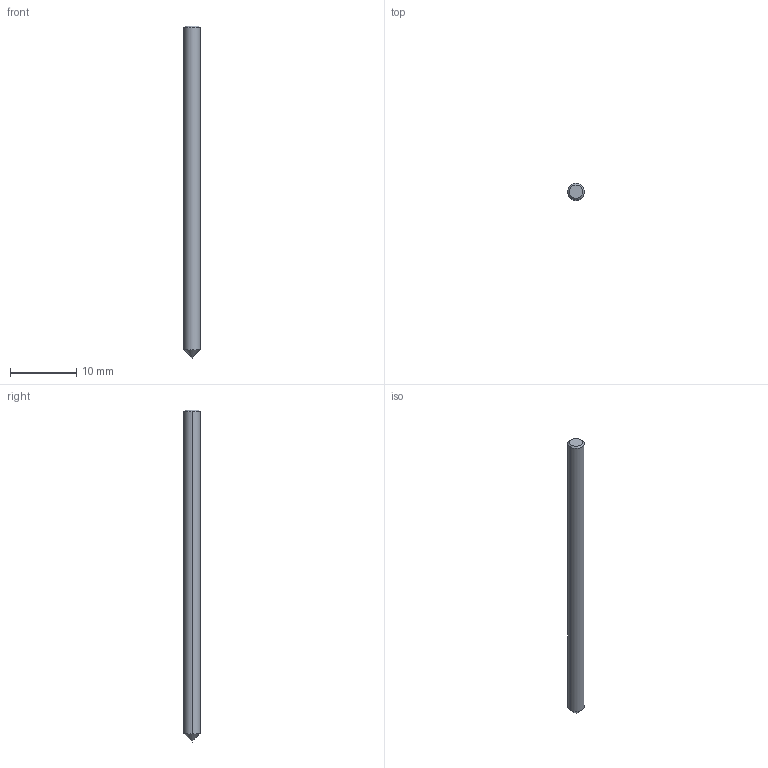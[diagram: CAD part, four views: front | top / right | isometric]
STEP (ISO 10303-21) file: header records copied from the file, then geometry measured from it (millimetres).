
FILE_DESCRIPTION (( 'STEP AP214' ), '1' );
FILE_NAME ('740.025.90_3D-model.step', '2022-02-19T09:39:04', ( '' ), ( '' ), 'SwSTEP 2.0', 'SolidWorks 2020', '' );
FILE_SCHEMA (( 'AUTOMOTIVE_DESIGN' ));
Length unit declared in the file: millimetre
Products named in the file (3): CUT-3D^Baugr46; 740.025.90_3D-model; NOCUT-3D^Baugr46
Assembly tree (2 placements, depth 2):
  740.025.90_3D-model
    CUT-3D^Baugr46
    NOCUT-3D^Baugr46
Bounding box: 2.5 x 2.5 x 50 mm (x, y, z)
Volume: 241.1 mm3; surface area: 403.3 mm2
Topology: 2 solids, 2 shells, 9 faces, 16 edges, 9 vertices
Faces by surface type: cone 4, plane 3, cylinder 2
Entity records: 330 total; most frequent: DIRECTION 56, CARTESIAN_POINT 40, ORIENTED_EDGE 28, AXIS2_PLACEMENT_3D 25, EDGE_CURVE 14, VERTEX_POINT 9, ADVANCED_FACE 9, FACE_OUTER_BOUND 9
